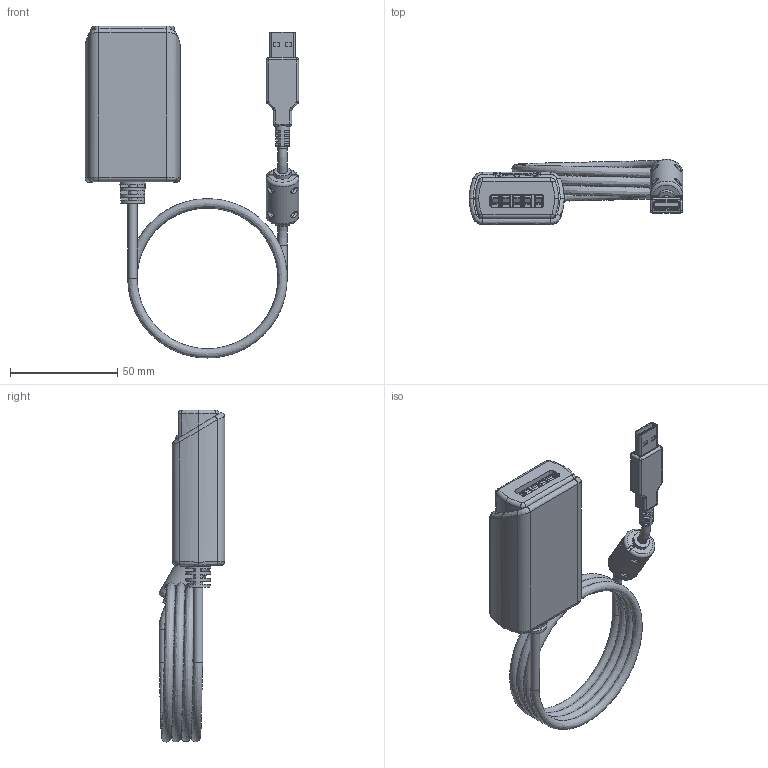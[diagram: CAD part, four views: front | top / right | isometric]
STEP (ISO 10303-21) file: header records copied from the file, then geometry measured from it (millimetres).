
FILE_DESCRIPTION(/* description */ (''),/* implementation_level */ '2;1');
FILE_NAME(/* name */ '/Users/leo/Desktop/Desktop - Leonardo’s MacBook Air/Coolgear May/USB-Comi-TB/USB-Comi-TB Model3D LPV1.step',/* time_stamp */ '2021-07-15T10:57:52-04:00',/* author */ (''),/* organization */ (''),/* preprocessor_version */ 'ST-DEVELOPER v18.1',/* originating_system */ 'Autodesk Translation Framework v10.9.0.1377',/* authorisation */ '');
FILE_SCHEMA (('AUTOMOTIVE_DESIGN { 1 0 10303 214 3 1 1 }'));
Length unit declared in the file: millimetre
Products named in the file (1): FusionComponent
Bounding box: 99.87 x 30.6 x 154.93 mm (x, y, z)
Volume: 64867.8 mm3; surface area: 41061.3 mm2
Topology: 2 solids, 2 shells, 1011 faces, 2748 edges, 1755 vertices
Faces by surface type: plane 600, cylinder 277, bspline 69, torus 40, sphere 14, cone 11
Full cylindrical faces by diameter (mm): 1 x6, 3.5 x5, 3.8 x5, 4 x5, 4.3 x8, 8 x2, 10 x2, 10.4 x2, 15.4 x1
Entity records: 38250 total; most frequent: CARTESIAN_POINT 12709, ORIENTED_EDGE 5468, DIRECTION 5158, EDGE_CURVE 2734, VERTEX_POINT 1755, AXIS2_PLACEMENT_3D 1731, LINE 1696, VECTOR 1696
